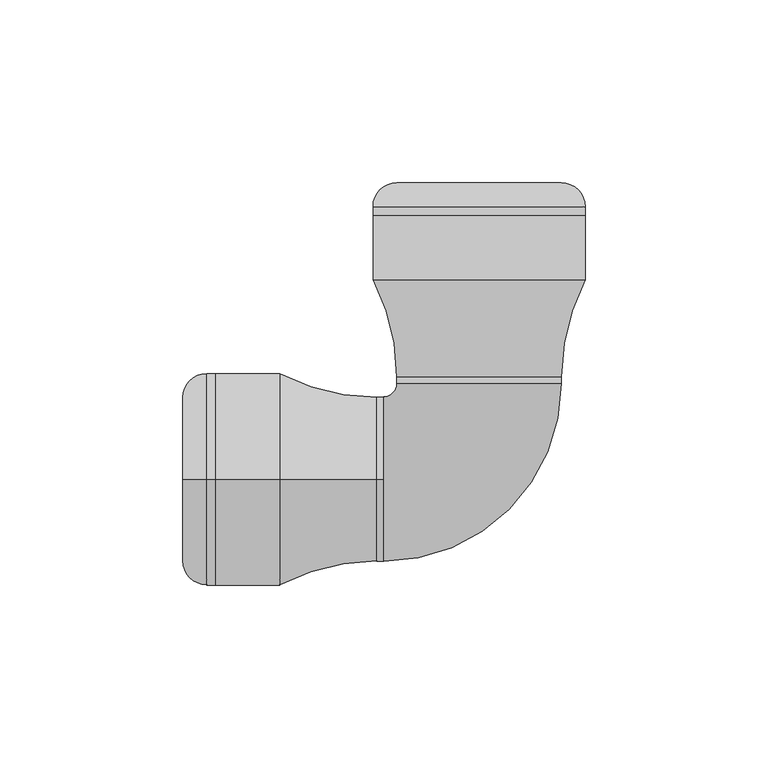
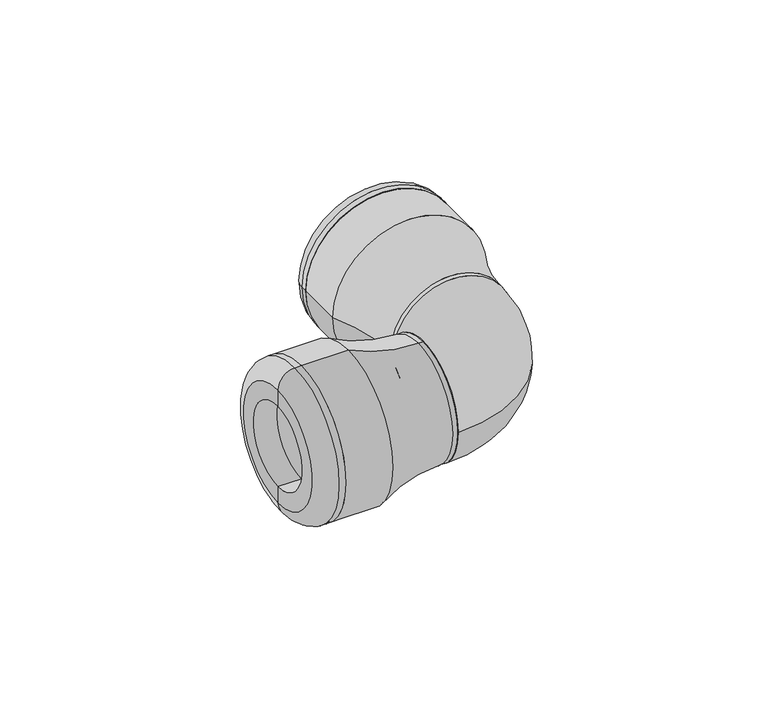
"""IFC4 building model written with IfcOpenShell, lengths in millimetres: pipe fitting geometry, Plumbing_Pipe-Fittings_Plasson_Elbow-90_1005 : Plumbing_Pipe-Fittings_Plasson_Elbow-90_1005."""

from ifc_helpers import new_model, si_unit, point, frame, origin, place, context, project, spatial, polyline, circle_curve, ellipse_curve, trimmed, source, transform, mapped, element, save
from ifc_brep_helpers import plane_surface, cylinder_surface, revolved_surface, advanced_brep


def pipe_fitting_b354435d(model_context):
    return source(origin(), model_context, "Body", "AdvancedBrep", [
        advanced_brep(
        [(-26.1, -22.5, 0.0), (-26.1, 22.5, 0.0), (22.5, 26.1, 0.0), (-22.5, 26.1, 0.0)],
        [
            (0, 1, circle_curve(frame((-26.1, 0.0, 0.0), z_axis=(-1.0, 0.0, 0.0), x_axis=(0.0, 1.0, 0.0)), 22.5)),
            (1, 0, circle_curve(frame((-26.1, 0.0, 0.0), z_axis=(-1.0, 0.0, 0.0), x_axis=(0.0, 1.0, 0.0)), 22.5)),
            (2, 3, circle_curve(frame((0.0, 26.1, 0.0), z_axis=(0.0, 1.0, 0.0), x_axis=(-1.0, 0.0, 0.0)), 22.5)),
            (3, 2, circle_curve(frame((0.0, 26.1, 0.0), z_axis=(0.0, 1.0, 0.0), x_axis=(-1.0, 0.0, 0.0)), 22.5)),
            (3, 1, circle_curve(frame((-26.1, 26.1, 0.0), z_axis=(0.0, 0.0, -1.0), x_axis=(0.0, -1.0, 0.0)), 3.6)),
            (0, 2, circle_curve(frame((-26.1, 26.1, 0.0), z_axis=(0.0, 0.0, 1.0), x_axis=(0.0, -1.0, 0.0)), 48.6)),
        ],
        [
            plane_surface(frame((-26.1, 0.0, 0.0), z_axis=(-1.0, 0.0, 0.0), x_axis=(0.0, 0.0, 1.0))),
            plane_surface(frame((0.0, 26.1, 0.0), z_axis=(0.0, 1.0, 0.0), x_axis=(0.0, 0.0, 1.0))),
            revolved_surface(trimmed(ellipse_curve(frame((-26.1, 0.0, 0.0), z_axis=(-1.0, 0.0, 0.0), x_axis=(0.0, 1.0, 0.0)), 22.5, 22.5), [point((-26.1, -22.5, 0.0))], [point((-26.1, 22.5, 0.0))], True, "CARTESIAN"), (-26.1, 26.1, 0.0), (0.0, 0.0, 1.0)),
            revolved_surface(trimmed(ellipse_curve(frame((-26.1, 0.0, 0.0), z_axis=(-1.0, 0.0, 0.0), x_axis=(0.0, 1.0, 0.0)), 22.5, 22.5), [point((-26.1, 22.5, 0.0))], [point((-26.1, -22.5, 0.0))], True, "CARTESIAN"), (-26.1, 26.1, 0.0), (0.0, 0.0, 1.0)),
        ],
        [
            (0, [[1, 2]]),
            (1, [[3, 4]]),
            (2, [[5, -1, 6, -4]]),
            (3, [[-6, -2, -5, -3]]),
        ],
    ),
        advanced_brep(
        [(22.5, 81.0, 0.0), (-22.5, 81.0, 0.0), (-16.0, 81.0, 0.0), (16.0, 81.0, 0.0), (29.0, 74.5, 0.0), (-29.0, 74.5, 0.0), (29.0, 72.1666667, 0.0), (-29.0, 72.1666667, 0.0), (16.0, 72.1666667, 0.0), (-16.0, 72.1666667, 0.0)],
        [
            (0, 1, circle_curve(frame((0.0, 81.0, 0.0), z_axis=(0.0, 1.0, 0.0), x_axis=(-1.0, 0.0, 0.0)), 22.5)),
            (1, 2),
            (2, 3, circle_curve(frame((0.0, 81.0, 0.0), z_axis=(0.0, -1.0, 0.0), x_axis=(-1.0, 0.0, 0.0)), 16.0)),
            (3, 0),
            (1, 0, circle_curve(frame((0.0, 81.0, 0.0), z_axis=(0.0, 1.0, 0.0), x_axis=(-1.0, 0.0, 0.0)), 22.5)),
            (3, 2, circle_curve(frame((0.0, 81.0, 0.0), z_axis=(0.0, -1.0, 0.0), x_axis=(-1.0, 0.0, 0.0)), 16.0)),
            (4, 5, circle_curve(frame((0.0, 74.5, 0.0), z_axis=(0.0, 1.0, 0.0), x_axis=(-1.0, 0.0, 0.0)), 29.0)),
            (5, 1, circle_curve(frame((-22.5, 74.5, 0.0), z_axis=(0.0, 0.0, -1.0), x_axis=(0.0, 1.0, 0.0)), 6.5)),
            (0, 4, circle_curve(frame((22.5, 74.5, 0.0), z_axis=(0.0, 0.0, -1.0), x_axis=(0.0, 1.0, 0.0)), 6.5)),
            (5, 4, circle_curve(frame((0.0, 74.5, 0.0), z_axis=(0.0, 1.0, 0.0), x_axis=(-1.0, 0.0, 0.0)), 29.0)),
            (6, 7, circle_curve(frame((0.0, 72.1666667, 0.0), z_axis=(0.0, 1.0, 0.0), x_axis=(-1.0, 0.0, 0.0)), 29.0)),
            (7, 5),
            (4, 6),
            (7, 6, circle_curve(frame((0.0, 72.1666667, 0.0), z_axis=(0.0, 1.0, 0.0), x_axis=(-1.0, 0.0, 0.0)), 29.0)),
            (8, 9, circle_curve(frame((0.0, 72.1666667, 0.0), z_axis=(0.0, 1.0, 0.0), x_axis=(-1.0, 0.0, 0.0)), 16.0)),
            (9, 7),
            (6, 8),
            (9, 8, circle_curve(frame((0.0, 72.1666667, 0.0), z_axis=(0.0, 1.0, 0.0), x_axis=(-1.0, 0.0, 0.0)), 16.0)),
            (2, 9),
            (8, 3),
        ],
        [
            plane_surface(frame((0.0, 81.0, 0.0), z_axis=(0.0, 1.0, 0.0), x_axis=(-1.0, 0.0, 0.0))),
            revolved_surface(trimmed(ellipse_curve(frame((-22.5, 74.5, 0.0), z_axis=(0.0, 0.0, 1.0), x_axis=(0.0, 1.0, 0.0)), 6.5, 6.5), [point((-22.5, 81.0, 0.0))], [point((-29.0, 74.5, 0.0))], True, "CARTESIAN"), (0.0, 34.2561261, 0.0), (0.0, -1.0, 0.0)),
            cylinder_surface(frame((0.0, 34.2561261, 0.0), z_axis=(0.0, -1.0, 0.0), x_axis=(-1.0, 0.0, 0.0)), 29.0),
            plane_surface(frame((0.0, 72.1666667, 0.0), z_axis=(0.0, -1.0, 0.0), x_axis=(-1.0, 0.0, 0.0))),
            revolved_surface(polyline([(-16.0, 72.1666667, 0.0), (-16.0, 81.0, 0.0)]), (0.0, 34.2561261, 0.0), (0.0, -1.0, 0.0)),
        ],
        [
            (0, [[1, 2, 3, 4]]),
            (0, [[5, -4, 6, -2]]),
            (1, [[7, 8, -1, 9]]),
            (1, [[10, -9, -5, -8]]),
            (2, [[11, 12, -7, 13]]),
            (2, [[14, -13, -10, -12]]),
            (3, [[15, 16, -11, 17]]),
            (3, [[18, -17, -14, -16]]),
            (4, [[-3, 19, -15, 20]]),
            (4, [[-6, -20, -18, -19]]),
        ],
    ),
        advanced_brep(
        [(29.0, 54.5, 0.0), (-29.0, 54.5, 0.0), (-29.0, 72.1666667, 0.0), (29.0, 72.1666667, 0.0), (16.0, 28.0, 0.0), (-16.0, 28.0, 0.0), (0.0, 28.0, 0.0), (16.0, 72.1666667, 0.0), (-16.0, 72.1666667, 0.0), (22.5, 28.0, 0.0), (-22.5, 28.0, 0.0), (22.5, 26.1, 0.0), (-22.5, 26.1, 0.0), (0.0, 26.1, 0.0)],
        [
            (0, 1, circle_curve(frame((0.0, 54.5, 0.0), z_axis=(0.0, 1.0, 0.0), x_axis=(-1.0, 0.0, 0.0)), 29.0)),
            (1, 2),
            (2, 3, circle_curve(frame((0.0, 72.1666667, 0.0), z_axis=(0.0, -1.0, 0.0), x_axis=(-1.0, 0.0, 0.0)), 29.0)),
            (3, 0),
            (1, 0, circle_curve(frame((0.0, 54.5, 0.0), z_axis=(0.0, 1.0, 0.0), x_axis=(-1.0, 0.0, 0.0)), 29.0)),
            (3, 2, circle_curve(frame((0.0, 72.1666667, 0.0), z_axis=(0.0, -1.0, 0.0), x_axis=(-1.0, 0.0, 0.0)), 29.0)),
            (4, 5, circle_curve(frame((0.0, 28.0, 0.0), z_axis=(0.0, 1.0, 0.0), x_axis=(-1.0, 0.0, 0.0)), 16.0)),
            (5, 6),
            (6, 4),
            (5, 4, circle_curve(frame((0.0, 28.0, 0.0), z_axis=(0.0, 1.0, 0.0), x_axis=(-1.0, 0.0, 0.0)), 16.0)),
            (7, 8, circle_curve(frame((0.0, 72.1666667, 0.0), z_axis=(0.0, 1.0, 0.0), x_axis=(-1.0, 0.0, 0.0)), 16.0)),
            (8, 5),
            (4, 7),
            (8, 7, circle_curve(frame((0.0, 72.1666667, 0.0), z_axis=(0.0, 1.0, 0.0), x_axis=(-1.0, 0.0, 0.0)), 16.0)),
            (2, 8),
            (7, 3),
            (9, 10, circle_curve(frame((0.0, 28.0, 0.0), z_axis=(0.0, 1.0, 0.0), x_axis=(-1.0, 0.0, 0.0)), 22.5)),
            (10, 1, circle_curve(frame((-79.7692308, 28.0, 0.0), z_axis=(0.0, 0.0, 1.0), x_axis=(0.0, 1.0, 0.0)), 57.2692308)),
            (0, 9, circle_curve(frame((79.7692308, 28.0, 0.0), z_axis=(0.0, 0.0, 1.0), x_axis=(0.0, 1.0, 0.0)), 57.2692308)),
            (10, 9, circle_curve(frame((0.0, 28.0, 0.0), z_axis=(0.0, 1.0, 0.0), x_axis=(-1.0, 0.0, 0.0)), 22.5)),
            (11, 12, circle_curve(frame((0.0, 26.1, 0.0), z_axis=(0.0, 1.0, 0.0), x_axis=(-1.0, 0.0, 0.0)), 22.5)),
            (12, 10),
            (9, 11),
            (12, 11, circle_curve(frame((0.0, 26.1, 0.0), z_axis=(0.0, 1.0, 0.0), x_axis=(-1.0, 0.0, 0.0)), 22.5)),
            (13, 12),
            (11, 13),
        ],
        [
            cylinder_surface(frame((0.0, 36.3135311, 0.0), z_axis=(0.0, -1.0, 0.0), x_axis=(-1.0, 0.0, 0.0)), 29.0),
            plane_surface(frame((0.0, 28.0, 0.0), z_axis=(0.0, 1.0, 0.0), x_axis=(-1.0, 0.0, 0.0))),
            revolved_surface(polyline([(-16.0, 28.0, 0.0), (-16.0, 72.1666667, 0.0)]), (0.0, 36.3135311, 0.0), (0.0, -1.0, 0.0)),
            plane_surface(frame((0.0, 72.1666667, 0.0), z_axis=(0.0, 1.0, 0.0), x_axis=(-1.0, 0.0, 0.0))),
            revolved_surface(trimmed(ellipse_curve(frame((-79.7692308, 28.0, 0.0), z_axis=(0.0, 0.0, -1.0), x_axis=(0.0, 1.0, 0.0)), 57.2692308, 57.2692308), [point((-29.0, 54.5, 0.0))], [point((-22.5, 28.0, 0.0))], True, "CARTESIAN"), (0.0, 36.3135311, 0.0), (0.0, -1.0, 0.0)),
            cylinder_surface(frame((0.0, 36.3135311, 0.0), z_axis=(0.0, -1.0, 0.0), x_axis=(-1.0, 0.0, 0.0)), 22.5),
            plane_surface(frame((0.0, 26.1, 0.0), z_axis=(0.0, -1.0, 0.0), x_axis=(-1.0, 0.0, 0.0))),
        ],
        [
            (0, [[1, 2, 3, 4]]),
            (0, [[5, -4, 6, -2]]),
            (1, [[7, 8, 9]]),
            (1, [[10, -9, -8]]),
            (2, [[11, 12, -7, 13]]),
            (2, [[14, -13, -10, -12]]),
            (3, [[-3, 15, -11, 16]]),
            (3, [[-6, -16, -14, -15]]),
            (4, [[17, 18, -1, 19]]),
            (4, [[20, -19, -5, -18]]),
            (5, [[21, 22, -17, 23]]),
            (5, [[24, -23, -20, -22]]),
            (6, [[25, -21, 26]]),
            (6, [[-26, -24, -25]]),
        ],
    ),
        advanced_brep(
        [(-72.1666667, 0.0, -29.0), (-72.1666667, 0.0, 29.0), (-72.1666667, 0.0, 16.0), (-72.1666667, 0.0, -16.0), (-74.5, 0.0, -29.0), (-74.5, 0.0, 29.0), (-81.0, 0.0, -22.5), (-81.0, 0.0, 22.5), (-81.0, 0.0, -16.0), (-81.0, 0.0, 16.0)],
        [
            (0, 1, circle_curve(frame((-72.1666667, 0.0, 0.0), z_axis=(1.0, 0.0, 0.0), x_axis=(0.0, 0.0, 1.0)), 29.0)),
            (1, 2),
            (2, 3, circle_curve(frame((-72.1666667, 0.0, 0.0), z_axis=(-1.0, 0.0, 0.0), x_axis=(0.0, 0.0, 1.0)), 16.0)),
            (3, 0),
            (1, 0, circle_curve(frame((-72.1666667, 0.0, 0.0), z_axis=(1.0, 0.0, 0.0), x_axis=(0.0, 0.0, 1.0)), 29.0)),
            (3, 2, circle_curve(frame((-72.1666667, 0.0, 0.0), z_axis=(-1.0, 0.0, 0.0), x_axis=(0.0, 0.0, 1.0)), 16.0)),
            (4, 5, circle_curve(frame((-74.5, 0.0, 0.0), z_axis=(1.0, 0.0, 0.0), x_axis=(0.0, 0.0, 1.0)), 29.0)),
            (5, 1),
            (0, 4),
            (5, 4, circle_curve(frame((-74.5, 0.0, 0.0), z_axis=(1.0, 0.0, 0.0), x_axis=(0.0, 0.0, 1.0)), 29.0)),
            (6, 7, circle_curve(frame((-81.0, 0.0, 0.0), z_axis=(1.0, 0.0, 0.0), x_axis=(0.0, 0.0, 1.0)), 22.5)),
            (7, 5, circle_curve(frame((-74.5, 0.0, 22.5), z_axis=(0.0, 1.0, 0.0), x_axis=(1.0, 0.0, 0.0)), 6.5)),
            (4, 6, circle_curve(frame((-74.5, 0.0, -22.5), z_axis=(0.0, 1.0, 0.0), x_axis=(1.0, 0.0, 0.0)), 6.5)),
            (7, 6, circle_curve(frame((-81.0, 0.0, 0.0), z_axis=(1.0, 0.0, 0.0), x_axis=(0.0, 0.0, 1.0)), 22.5)),
            (8, 9, circle_curve(frame((-81.0, 0.0, 0.0), z_axis=(1.0, 0.0, 0.0), x_axis=(0.0, 0.0, 1.0)), 16.0)),
            (9, 7),
            (6, 8),
            (9, 8, circle_curve(frame((-81.0, 0.0, 0.0), z_axis=(1.0, 0.0, 0.0), x_axis=(0.0, 0.0, 1.0)), 16.0)),
            (2, 9),
            (8, 3),
        ],
        [
            plane_surface(frame((-72.1666667, 0.0, 0.0), z_axis=(1.0, 0.0, 0.0), x_axis=(0.0, 0.0, 1.0))),
            cylinder_surface(frame((-86.0, 0.0, 0.0), z_axis=(-1.0, 0.0, 0.0), x_axis=(0.0, 0.0, 1.0)), 29.0),
            revolved_surface(trimmed(ellipse_curve(frame((-74.5, 0.0, 22.5), z_axis=(0.0, -1.0, 0.0), x_axis=(1.0, 0.0, 0.0)), 6.5, 6.5), [point((-74.5, 0.0, 29.0))], [point((-81.0, 0.0, 22.5))], True, "CARTESIAN"), (-86.0, 0.0, 0.0), (-1.0, 0.0, 0.0)),
            plane_surface(frame((-81.0, 0.0, 0.0), z_axis=(-1.0, 0.0, 0.0), x_axis=(0.0, 0.0, 1.0))),
            revolved_surface(polyline([(-81.0, 0.0, 16.0), (-72.1666667, 0.0, 16.0)]), (-86.0, 0.0, 0.0), (-1.0, 0.0, 0.0)),
        ],
        [
            (0, [[1, 2, 3, 4]]),
            (0, [[5, -4, 6, -2]]),
            (1, [[7, 8, -1, 9]]),
            (1, [[10, -9, -5, -8]]),
            (2, [[11, 12, -7, 13]]),
            (2, [[14, -13, -10, -12]]),
            (3, [[15, 16, -11, 17]]),
            (3, [[18, -17, -14, -16]]),
            (4, [[-3, 19, -15, 20]]),
            (4, [[-6, -20, -18, -19]]),
        ],
    ),
        advanced_brep(
        [(-72.1666667, 0.0, -16.0), (-72.1666667, 0.0, 16.0), (-72.1666667, 0.0, 29.0), (-72.1666667, 0.0, -29.0), (-28.0, 0.0, -16.0), (-28.0, 0.0, 16.0), (-28.0, 0.0, 0.0), (-54.5, 0.0, 29.0), (-54.5, 0.0, -29.0), (-26.1, 0.0, -22.5), (-26.1, 0.0, 22.5), (-26.1, 0.0, 0.0), (-28.0, 0.0, -22.5), (-28.0, 0.0, 22.5)],
        [
            (0, 1, circle_curve(frame((-72.1666667, 0.0, 0.0), z_axis=(1.0, 0.0, 0.0), x_axis=(0.0, 0.0, 1.0)), 16.0)),
            (1, 2),
            (2, 3, circle_curve(frame((-72.1666667, 0.0, 0.0), z_axis=(-1.0, 0.0, 0.0), x_axis=(0.0, 0.0, 1.0)), 29.0)),
            (3, 0),
            (1, 0, circle_curve(frame((-72.1666667, 0.0, 0.0), z_axis=(1.0, 0.0, 0.0), x_axis=(0.0, 0.0, 1.0)), 16.0)),
            (3, 2, circle_curve(frame((-72.1666667, 0.0, 0.0), z_axis=(-1.0, 0.0, 0.0), x_axis=(0.0, 0.0, 1.0)), 29.0)),
            (4, 5, circle_curve(frame((-28.0, 0.0, 0.0), z_axis=(1.0, 0.0, 0.0), x_axis=(0.0, 0.0, 1.0)), 16.0)),
            (5, 1),
            (0, 4),
            (5, 4, circle_curve(frame((-28.0, 0.0, 0.0), z_axis=(1.0, 0.0, 0.0), x_axis=(0.0, 0.0, 1.0)), 16.0)),
            (6, 5),
            (4, 6),
            (2, 7),
            (7, 8, circle_curve(frame((-54.5, 0.0, 0.0), z_axis=(-1.0, 0.0, 0.0), x_axis=(0.0, 0.0, 1.0)), 29.0)),
            (8, 3),
            (8, 7, circle_curve(frame((-54.5, 0.0, 0.0), z_axis=(-1.0, 0.0, 0.0), x_axis=(0.0, 0.0, 1.0)), 29.0)),
            (9, 10, circle_curve(frame((-26.1, 0.0, 0.0), z_axis=(1.0, 0.0, 0.0), x_axis=(0.0, 0.0, 1.0)), 22.5)),
            (10, 11),
            (11, 9),
            (10, 9, circle_curve(frame((-26.1, 0.0, 0.0), z_axis=(1.0, 0.0, 0.0), x_axis=(0.0, 0.0, 1.0)), 22.5)),
            (12, 13, circle_curve(frame((-28.0, 0.0, 0.0), z_axis=(1.0, 0.0, 0.0), x_axis=(0.0, 0.0, 1.0)), 22.5)),
            (13, 10),
            (9, 12),
            (13, 12, circle_curve(frame((-28.0, 0.0, 0.0), z_axis=(1.0, 0.0, 0.0), x_axis=(0.0, 0.0, 1.0)), 22.5)),
            (7, 13, circle_curve(frame((-28.0, 0.0, 79.7692308), z_axis=(0.0, -1.0, 0.0), x_axis=(1.0, 0.0, 0.0)), 57.2692308)),
            (12, 8, circle_curve(frame((-28.0, 0.0, -79.7692308), z_axis=(0.0, -1.0, 0.0), x_axis=(1.0, 0.0, 0.0)), 57.2692308)),
        ],
        [
            plane_surface(frame((-72.1666667, 0.0, 0.0), z_axis=(-1.0, 0.0, 0.0), x_axis=(0.0, 0.0, 1.0))),
            revolved_surface(polyline([(-72.1666667, 0.0, 16.0), (-28.0, 0.0, 16.0)]), (-72.1666667, 0.0, 0.0), (-1.0, 0.0, 0.0)),
            plane_surface(frame((-28.0, 0.0, 0.0), z_axis=(-1.0, 0.0, 0.0), x_axis=(0.0, 0.0, 1.0))),
            cylinder_surface(frame((-72.1666667, 0.0, 0.0), z_axis=(-1.0, 0.0, 0.0), x_axis=(0.0, 0.0, 1.0)), 29.0),
            plane_surface(frame((-26.1, 0.0, 0.0), z_axis=(1.0, 0.0, 0.0), x_axis=(0.0, 0.0, 1.0))),
            cylinder_surface(frame((-72.1666667, 0.0, 0.0), z_axis=(-1.0, 0.0, 0.0), x_axis=(0.0, 0.0, 1.0)), 22.5),
            revolved_surface(trimmed(ellipse_curve(frame((-28.0, 0.0, 79.7692308), z_axis=(0.0, 1.0, 0.0), x_axis=(1.0, 0.0, 0.0)), 57.2692308, 57.2692308), [point((-28.0, 0.0, 22.5))], [point((-54.5, 0.0, 29.0))], True, "CARTESIAN"), (-72.1666667, 0.0, 0.0), (-1.0, 0.0, 0.0)),
        ],
        [
            (0, [[1, 2, 3, 4]]),
            (0, [[5, -4, 6, -2]]),
            (1, [[7, 8, -1, 9]]),
            (1, [[10, -9, -5, -8]]),
            (2, [[11, -7, 12]]),
            (2, [[-12, -10, -11]]),
            (3, [[-3, 13, 14, 15]]),
            (3, [[-6, -15, 16, -13]]),
            (4, [[17, 18, 19]]),
            (4, [[20, -19, -18]]),
            (5, [[21, 22, -17, 23]]),
            (5, [[24, -23, -20, -22]]),
            (6, [[-14, 25, -21, 26]]),
            (6, [[-16, -26, -24, -25]]),
        ],
    ),
    ])


if __name__ == "__main__":
    model = new_model("IFC4")
    model_context = context("Model", 3, world=origin())
    ifc_project = project(units=[si_unit("LENGTHUNIT", "METRE", prefix="MILLI")], contexts=[model_context])
    site = spatial("IfcSite", under=ifc_project)
    building = spatial("IfcBuilding", under=site)
    placement = place(None, origin())
    pipe_fitting_shape = pipe_fitting_b354435d(model_context)
    element("IfcPipeFitting", 1, ObjectType="Plumbing_Pipe-Fittings_Plasson_Elbow-90_1005 : Plumbing_Pipe-Fittings_Plasson_Elbow-90_1005", at=placement, inside=building, context=model_context, shape_type="MappedRepresentation", body=[
        mapped(pipe_fitting_shape, transform((0.0, 0.0, 0.0), x_axis=(1.0, 0.0, 0.0), y_axis=(0.0, 1.0, 0.0), z_axis=(0.0, 0.0, 1.0))),
    ])
    save(model, "model.ifc")
